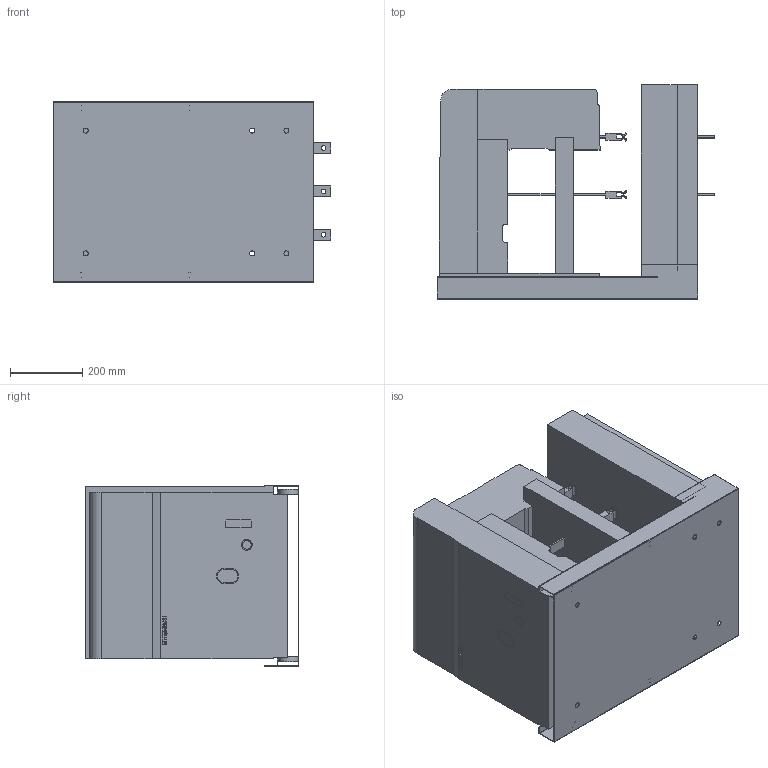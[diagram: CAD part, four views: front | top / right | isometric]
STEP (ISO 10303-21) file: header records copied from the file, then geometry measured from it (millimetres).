
FILE_DESCRIPTION(('STEP AP214'), '1');
FILE_NAME('Âûäâèæíîå èñïîëíåíèå 3,6_7,2êÂ, êîðçèíà êëàññà E_F (D3)', '', ('UNSPECIFIED'), ('UNSPECIFIED'), 'ASCON STEP Converter 1.3', 'ASCON Math Kernel', '');
FILE_SCHEMA(('AUTOMOTIVE_DESIGN { 1 0 10303 214 3 1 1}'));
Length unit declared in the file: millimetre
Bounding box: 767.57 x 591.84 x 500.01 mm (x, y, z)
Volume: 109775099.4 mm3; surface area: 3637880.9 mm2
Topology: 2 solids, 2 shells, 378 faces, 1034 edges, 684 vertices
Faces by surface type: plane 288, cylinder 64, extrusion 26
Full cylindrical faces by diameter (mm): 13 x6, 14 x6, 24 x1, 30 x1, 54 x4
Entity records: 14927 total; most frequent: CARTESIAN_POINT 2235, ORIENTED_EDGE 2032, DIRECTION 1833, EDGE_CURVE 1016, VECTOR 853, LINE 827, VERTEX_POINT 684, AXIS2_PLACEMENT_3D 490
